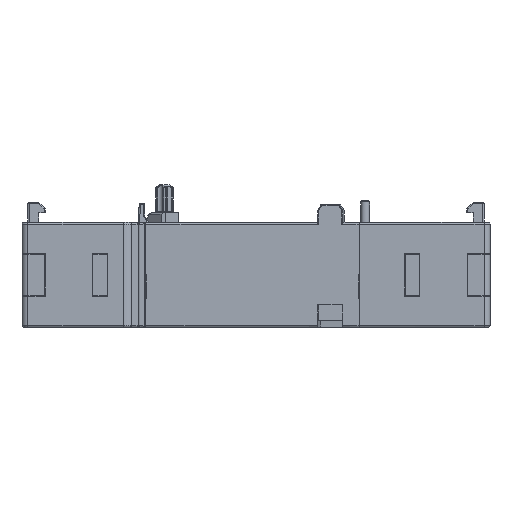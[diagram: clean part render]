
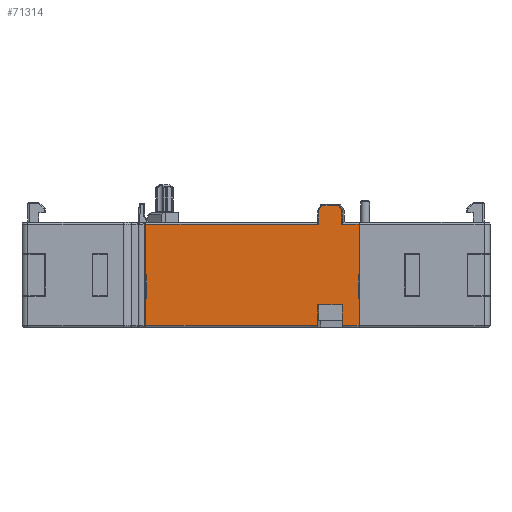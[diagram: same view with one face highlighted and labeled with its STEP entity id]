
A CAD part, front view. The second image highlights one B-rep face of the part: STEP entity #71314.
In plain terms, the highlighted planar face has unit normal (0, -1, 0).
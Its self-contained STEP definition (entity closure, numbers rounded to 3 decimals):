
#1651=DIRECTION('',(0.,0.,1.));
#1652=VECTOR('',#1651,4.55);
#1653=CARTESIAN_POINT('',(9.8,-46.,0.3));
#1654=LINE('',#1653,#1652);
#1667=DIRECTION('',(-1.,0.,0.));
#1668=VECTOR('',#1667,0.1);
#1669=CARTESIAN_POINT('',(9.8,-46.,8.85));
#1670=LINE('',#1669,#1668);
#19049=DIRECTION('',(0.,0.,-1.));
#19050=VECTOR('',#19049,4.);
#19051=CARTESIAN_POINT('',(-26.,-46.,8.85));
#19052=LINE('',#19051,#19050);
#19053=DIRECTION('',(-1.,0.,0.));
#19054=VECTOR('',#19053,0.2);
#19055=CARTESIAN_POINT('',(-26.,-46.,8.85));
#19056=LINE('',#19055,#19054);
#19197=DIRECTION('',(1.,0.,0.));
#19198=VECTOR('',#19197,0.2);
#19199=CARTESIAN_POINT('',(-26.2,-46.,4.85));
#19200=LINE('',#19199,#19198);
#19201=DIRECTION('',(0.,0.,-1.));
#19202=VECTOR('',#19201,8.55);
#19203=CARTESIAN_POINT('',(-26.2,-46.,17.4));
#19204=LINE('',#19203,#19202);
#19205=DIRECTION('',(1.,0.,0.));
#19206=VECTOR('',#19205,29.192);
#19207=CARTESIAN_POINT('',(-26.2,-46.,17.4));
#19208=LINE('',#19207,#19206);
#19209=DIRECTION('',(-0.506,0.,-0.863));
#19210=VECTOR('',#19209,0.989);
#19211=CARTESIAN_POINT('',(3.493,-46.,20.5));
#19212=LINE('',#19211,#19210);
#19213=DIRECTION('',(1.,0.,0.));
#19214=VECTOR('',#19213,2.858);
#19215=CARTESIAN_POINT('',(3.493,-46.,20.5));
#19216=LINE('',#19215,#19214);
#19217=DIRECTION('',(-0.506,0.,0.863));
#19218=VECTOR('',#19217,0.989);
#19219=CARTESIAN_POINT('',(6.851,-46.,19.646));
#19220=LINE('',#19219,#19218);
#19221=DIRECTION('',(1.,0.,0.));
#19222=VECTOR('',#19221,2.949);
#19223=CARTESIAN_POINT('',(6.851,-46.,17.4));
#19224=LINE('',#19223,#19222);
#19225=DIRECTION('',(0.,0.,-1.));
#19226=VECTOR('',#19225,8.55);
#19227=CARTESIAN_POINT('',(9.8,-46.,17.4));
#19228=LINE('',#19227,#19226);
#19229=DIRECTION('',(0.,0.,-1.));
#19230=VECTOR('',#19229,4.);
#19231=CARTESIAN_POINT('',(9.7,-46.,8.85));
#19232=LINE('',#19231,#19230);
#19233=DIRECTION('',(1.,0.,0.));
#19234=VECTOR('',#19233,0.1);
#19235=CARTESIAN_POINT('',(9.7,-46.,4.85));
#19236=LINE('',#19235,#19234);
#19237=DIRECTION('',(-1.,0.,0.));
#19238=VECTOR('',#19237,2.832);
#19239=CARTESIAN_POINT('',(9.8,-46.,0.3));
#19240=LINE('',#19239,#19238);
#19241=DIRECTION('',(0.,0.,1.));
#19242=VECTOR('',#19241,3.5);
#19243=CARTESIAN_POINT('',(6.968,-46.,0.3));
#19244=LINE('',#19243,#19242);
#19245=DIRECTION('',(-1.,0.,0.));
#19246=VECTOR('',#19245,4.163);
#19247=CARTESIAN_POINT('',(6.968,-46.,3.8));
#19248=LINE('',#19247,#19246);
#19249=DIRECTION('',(0.,0.,1.));
#19250=VECTOR('',#19249,3.5);
#19251=CARTESIAN_POINT('',(2.805,-46.,0.3));
#19252=LINE('',#19251,#19250);
#19253=DIRECTION('',(-1.,0.,0.));
#19254=VECTOR('',#19253,29.005);
#19255=CARTESIAN_POINT('',(2.805,-46.,0.3));
#19256=LINE('',#19255,#19254);
#19257=DIRECTION('',(0.,0.,1.));
#19258=VECTOR('',#19257,4.55);
#19259=CARTESIAN_POINT('',(-26.2,-46.,0.3));
#19260=LINE('',#19259,#19258);
#19261=DIRECTION('',(0.,0.,-1.));
#19262=VECTOR('',#19261,2.246);
#19263=CARTESIAN_POINT('',(2.992,-46.,19.646));
#19264=LINE('',#19263,#19262);
#19661=DIRECTION('',(0.,0.,1.));
#19662=VECTOR('',#19661,2.246);
#19663=CARTESIAN_POINT('',(6.851,-46.,17.4));
#19664=LINE('',#19663,#19662);
#19761=CARTESIAN_POINT('',(6.968,-46.,0.3));
#19775=CARTESIAN_POINT('',(2.805,-46.,0.3));
#38247=CARTESIAN_POINT('',(6.968,-46.,3.8));
#38248=CARTESIAN_POINT('',(2.805,-46.,3.8));
#38249=VERTEX_POINT('',#38247);
#38250=VERTEX_POINT('',#38248);
#38911=CARTESIAN_POINT('',(-26.2,-46.,4.85));
#38912=VERTEX_POINT('',#38911);
#38913=CARTESIAN_POINT('',(9.8,-46.,4.85));
#38914=VERTEX_POINT('',#38913);
#39838=CARTESIAN_POINT('',(9.8,-46.,0.3));
#39839=VERTEX_POINT('',#39838);
#39841=VERTEX_POINT('',#19761);
#39842=VERTEX_POINT('',#19775);
#39846=CARTESIAN_POINT('',(-26.2,-46.,0.3));
#39847=VERTEX_POINT('',#39846);
#45904=CARTESIAN_POINT('',(9.7,-46.,8.85));
#45906=VERTEX_POINT('',#45904);
#45907=CARTESIAN_POINT('',(-26.,-46.,8.85));
#45909=VERTEX_POINT('',#45907);
#46017=CARTESIAN_POINT('',(3.493,-46.,20.5));
#46018=CARTESIAN_POINT('',(6.351,-46.,20.5));
#46019=VERTEX_POINT('',#46017);
#46020=VERTEX_POINT('',#46018);
#46025=CARTESIAN_POINT('',(6.851,-46.,19.646));
#46026=VERTEX_POINT('',#46025);
#46047=CARTESIAN_POINT('',(2.992,-46.,19.646));
#46048=VERTEX_POINT('',#46047);
#47345=CARTESIAN_POINT('',(-26.2,-46.,17.4));
#47346=VERTEX_POINT('',#47345);
#47347=CARTESIAN_POINT('',(2.992,-46.,17.4));
#47348=VERTEX_POINT('',#47347);
#47355=CARTESIAN_POINT('',(6.851,-46.,17.4));
#47356=CARTESIAN_POINT('',(9.8,-46.,17.4));
#47357=VERTEX_POINT('',#47355);
#47358=VERTEX_POINT('',#47356);
#47489=CARTESIAN_POINT('',(9.8,-46.,8.85));
#47491=VERTEX_POINT('',#47489);
#47562=CARTESIAN_POINT('',(-26.2,-46.,8.85));
#47564=VERTEX_POINT('',#47562);
#47594=CARTESIAN_POINT('',(9.7,-46.,4.85));
#47595=VERTEX_POINT('',#47594);
#47596=CARTESIAN_POINT('',(-26.,-46.,4.85));
#47597=VERTEX_POINT('',#47596);
#71273=CARTESIAN_POINT('',(-27.2,-46.,1.15));
#71274=DIRECTION('',(0.,-1.,0.));
#71275=DIRECTION('',(1.,0.,0.));
#71276=AXIS2_PLACEMENT_3D('',#71273,#71274,#71275);
#71277=PLANE('',#71276);
#71278=ORIENTED_EDGE('',*,*,#71125,.T.);
#71279=ORIENTED_EDGE('',*,*,#71147,.F.);
#71280=ORIENTED_EDGE('',*,*,#71159,.T.);
#71281=ORIENTED_EDGE('',*,*,#71175,.F.);
#71282=ORIENTED_EDGE('',*,*,#71262,.T.);
#71284=ORIENTED_EDGE('',*,*,#71283,.F.);
#71286=ORIENTED_EDGE('',*,*,#71285,.F.);
#71288=ORIENTED_EDGE('',*,*,#71287,.T.);
#71290=ORIENTED_EDGE('',*,*,#71289,.F.);
#71292=ORIENTED_EDGE('',*,*,#71291,.F.);
#71294=ORIENTED_EDGE('',*,*,#71293,.T.);
#71295=ORIENTED_EDGE('',*,*,#49575,.T.);
#71296=ORIENTED_EDGE('',*,*,#49603,.T.);
#71298=ORIENTED_EDGE('',*,*,#71297,.T.);
#71299=ORIENTED_EDGE('',*,*,#71131,.T.);
#71300=ORIENTED_EDGE('',*,*,#49582,.F.);
#71302=ORIENTED_EDGE('',*,*,#71301,.T.);
#71304=ORIENTED_EDGE('',*,*,#71303,.T.);
#71306=ORIENTED_EDGE('',*,*,#71305,.T.);
#71308=ORIENTED_EDGE('',*,*,#71307,.F.);
#71310=ORIENTED_EDGE('',*,*,#71309,.T.);
#71311=ORIENTED_EDGE('',*,*,#71182,.T.);
#71312=EDGE_LOOP('',(#71278,#71279,#71280,#71281,#71282,#71284,#71286,#71288,
#71290,#71292,#71294,#71295,#71296,#71298,#71299,#71300,#71302,#71304,#71306,
#71308,#71310,#71311));
#71313=FACE_OUTER_BOUND('',#71312,.F.);
#71314=ADVANCED_FACE('',(#71313),#71277,.T.);
#49575=EDGE_CURVE('',#47358,#47491,#19228,.T.);
#49582=EDGE_CURVE('',#39839,#38914,#1654,.T.);
#49603=EDGE_CURVE('',#47491,#45906,#1670,.T.);
#71125=EDGE_CURVE('',#38912,#47597,#19200,.T.);
#71131=EDGE_CURVE('',#47595,#38914,#19236,.T.);
#71147=EDGE_CURVE('',#45909,#47597,#19052,.T.);
#71159=EDGE_CURVE('',#45909,#47564,#19056,.T.);
#71175=EDGE_CURVE('',#47346,#47564,#19204,.T.);
#71182=EDGE_CURVE('',#39847,#38912,#19260,.T.);
#71262=EDGE_CURVE('',#47346,#47348,#19208,.T.);
#71283=EDGE_CURVE('',#46048,#47348,#19264,.T.);
#71285=EDGE_CURVE('',#46019,#46048,#19212,.T.);
#71287=EDGE_CURVE('',#46019,#46020,#19216,.T.);
#71289=EDGE_CURVE('',#46026,#46020,#19220,.T.);
#71291=EDGE_CURVE('',#47357,#46026,#19664,.T.);
#71293=EDGE_CURVE('',#47357,#47358,#19224,.T.);
#71297=EDGE_CURVE('',#45906,#47595,#19232,.T.);
#71301=EDGE_CURVE('',#39839,#39841,#19240,.T.);
#71303=EDGE_CURVE('',#39841,#38249,#19244,.T.);
#71305=EDGE_CURVE('',#38249,#38250,#19248,.T.);
#71307=EDGE_CURVE('',#39842,#38250,#19252,.T.);
#71309=EDGE_CURVE('',#39842,#39847,#19256,.T.);
